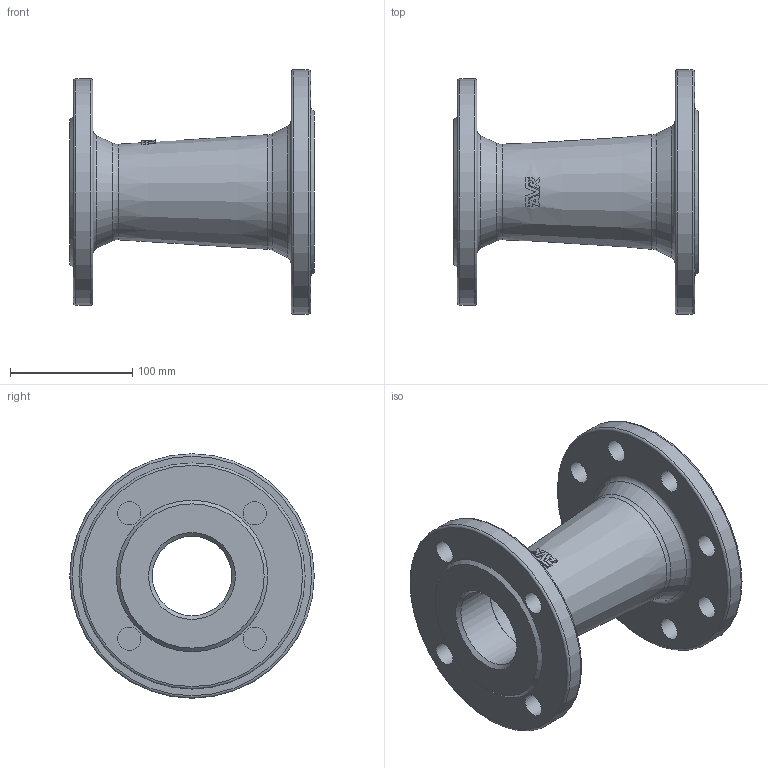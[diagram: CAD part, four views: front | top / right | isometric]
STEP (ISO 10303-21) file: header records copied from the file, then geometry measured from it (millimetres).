
FILE_DESCRIPTION (( 'STEP AP203' ), '1' );
FILE_NAME ('O_712_2210_DN80_DN65_1X_REV01.step', '2024-08-07T10:52:12', ( '' ), ( '' ), 'SwSTEP 2.0', 'SolidWorks 2022', '' );
FILE_SCHEMA (( 'CONFIG_CONTROL_DESIGN' ));
Length unit declared in the file: millimetre
Products named in the file (1): O_712_2210_DN80_DN65_1X_REV01
Bounding box: 200 x 200 x 200 mm (x, y, z)
Volume: 1109298 mm3; surface area: 204976.9 mm2
Topology: 1 solids, 1 shells, 81 faces, 212 edges, 141 vertices
Faces by surface type: plane 41, cylinder 18, cone 12, torus 10
Full cylindrical faces by diameter (mm): 19 x12, 65 x1, 80 x1, 185 x1, 200 x1
Entity records: 2400 total; most frequent: CARTESIAN_POINT 539, DIRECTION 369, ORIENTED_EDGE 326, AXIS2_PLACEMENT_3D 166, EDGE_CURVE 163, EDGE_LOOP 149, VERTEX_POINT 126, FACE_OUTER_BOUND 107
